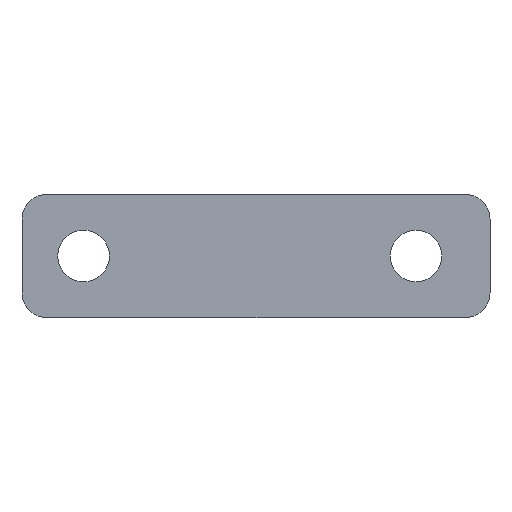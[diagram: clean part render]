
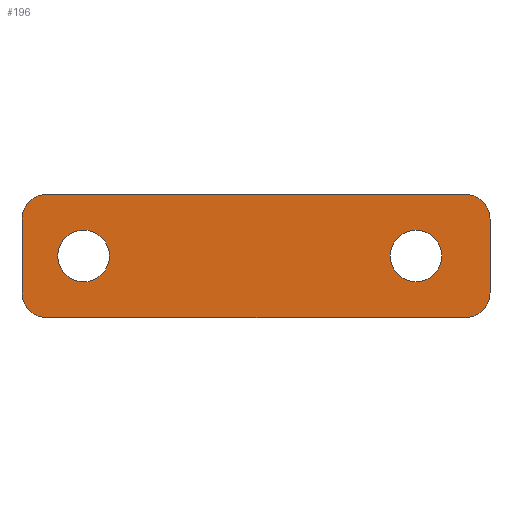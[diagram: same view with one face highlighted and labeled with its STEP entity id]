
A CAD part, front view. The second image highlights one B-rep face of the part: STEP entity #196.
In plain terms, the highlighted planar face has unit normal (0, -1, 0).
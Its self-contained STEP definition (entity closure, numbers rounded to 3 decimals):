
#22 = VERTEX_POINT('',#23);
#23 = CARTESIAN_POINT('',(88.,-158.3,85.));
#31 = EDGE_CURVE('',#22,#32,#34,.T.);
#32 = VERTEX_POINT('',#33);
#33 = CARTESIAN_POINT('',(122.,-158.3,85.));
#34 = LINE('',#35,#36);
#35 = CARTESIAN_POINT('',(88.,-158.3,85.));
#36 = VECTOR('',#37,1.);
#37 = DIRECTION('',(1.,0.,-0.));
#71 = VERTEX_POINT('',#72);
#72 = CARTESIAN_POINT('',(86.,-158.3,83.));
#78 = EDGE_CURVE('',#71,#22,#79,.T.);
#79 = CIRCLE('',#80,2.);
#80 = AXIS2_PLACEMENT_3D('',#81,#82,#83);
#81 = CARTESIAN_POINT('',(88.,-158.3,83.));
#82 = DIRECTION('',(0.,1.,0.));
#83 = DIRECTION('',(0.,-0.,1.));
#177 = EDGE_CURVE('',#32,#178,#180,.T.);
#178 = VERTEX_POINT('',#179);
#179 = CARTESIAN_POINT('',(124.,-158.3,83.));
#180 = CIRCLE('',#181,2.);
#181 = AXIS2_PLACEMENT_3D('',#182,#183,#184);
#182 = CARTESIAN_POINT('',(122.,-158.3,83.));
#183 = DIRECTION('',(0.,1.,0.));
#184 = DIRECTION('',(0.,-0.,1.));
#196 = ADVANCED_FACE('',(#197,#242,#253),#264,.T.);
#197 = FACE_BOUND('',#198,.T.);
#198 = EDGE_LOOP('',(#199,#209,#218,#224,#225,#226,#227,#235));
#199 = ORIENTED_EDGE('',*,*,#200,.T.);
#200 = EDGE_CURVE('',#201,#203,#205,.T.);
#201 = VERTEX_POINT('',#202);
#202 = CARTESIAN_POINT('',(88.,-158.3,75.));
#203 = VERTEX_POINT('',#204);
#204 = CARTESIAN_POINT('',(122.,-158.3,75.));
#205 = LINE('',#206,#207);
#206 = CARTESIAN_POINT('',(88.,-158.3,75.));
#207 = VECTOR('',#208,1.);
#208 = DIRECTION('',(1.,0.,-0.));
#209 = ORIENTED_EDGE('',*,*,#210,.F.);
#210 = EDGE_CURVE('',#211,#203,#213,.T.);
#211 = VERTEX_POINT('',#212);
#212 = CARTESIAN_POINT('',(124.,-158.3,77.));
#213 = CIRCLE('',#214,2.);
#214 = AXIS2_PLACEMENT_3D('',#215,#216,#217);
#215 = CARTESIAN_POINT('',(122.,-158.3,77.));
#216 = DIRECTION('',(0.,1.,0.));
#217 = DIRECTION('',(0.,-0.,1.));
#218 = ORIENTED_EDGE('',*,*,#219,.T.);
#219 = EDGE_CURVE('',#211,#178,#220,.T.);
#220 = LINE('',#221,#222);
#221 = CARTESIAN_POINT('',(124.,-158.3,77.));
#222 = VECTOR('',#223,1.);
#223 = DIRECTION('',(0.,0.,1.));
#224 = ORIENTED_EDGE('',*,*,#177,.F.);
#225 = ORIENTED_EDGE('',*,*,#31,.F.);
#226 = ORIENTED_EDGE('',*,*,#78,.F.);
#227 = ORIENTED_EDGE('',*,*,#228,.F.);
#228 = EDGE_CURVE('',#229,#71,#231,.T.);
#229 = VERTEX_POINT('',#230);
#230 = CARTESIAN_POINT('',(86.,-158.3,77.));
#231 = LINE('',#232,#233);
#232 = CARTESIAN_POINT('',(86.,-158.3,77.));
#233 = VECTOR('',#234,1.);
#234 = DIRECTION('',(0.,0.,1.));
#235 = ORIENTED_EDGE('',*,*,#236,.F.);
#236 = EDGE_CURVE('',#201,#229,#237,.T.);
#237 = CIRCLE('',#238,2.);
#238 = AXIS2_PLACEMENT_3D('',#239,#240,#241);
#239 = CARTESIAN_POINT('',(88.,-158.3,77.));
#240 = DIRECTION('',(0.,1.,0.));
#241 = DIRECTION('',(0.,-0.,1.));
#242 = FACE_BOUND('',#243,.T.);
#243 = EDGE_LOOP('',(#244));
#244 = ORIENTED_EDGE('',*,*,#245,.T.);
#245 = EDGE_CURVE('',#246,#246,#248,.T.);
#246 = VERTEX_POINT('',#247);
#247 = CARTESIAN_POINT('',(91.,-158.3,82.1));
#248 = CIRCLE('',#249,2.1);
#249 = AXIS2_PLACEMENT_3D('',#250,#251,#252);
#250 = CARTESIAN_POINT('',(91.,-158.3,80.));
#251 = DIRECTION('',(0.,1.,0.));
#252 = DIRECTION('',(0.,-0.,1.));
#253 = FACE_BOUND('',#254,.T.);
#254 = EDGE_LOOP('',(#255));
#255 = ORIENTED_EDGE('',*,*,#256,.T.);
#256 = EDGE_CURVE('',#257,#257,#259,.T.);
#257 = VERTEX_POINT('',#258);
#258 = CARTESIAN_POINT('',(118.,-158.3,82.1));
#259 = CIRCLE('',#260,2.1);
#260 = AXIS2_PLACEMENT_3D('',#261,#262,#263);
#261 = CARTESIAN_POINT('',(118.,-158.3,80.));
#262 = DIRECTION('',(0.,1.,0.));
#263 = DIRECTION('',(0.,-0.,1.));
#264 = PLANE('',#265);
#265 = AXIS2_PLACEMENT_3D('',#266,#267,#268);
#266 = CARTESIAN_POINT('',(105.,-158.3,80.));
#267 = DIRECTION('',(-0.,-1.,-0.));
#268 = DIRECTION('',(0.,0.,-1.));
